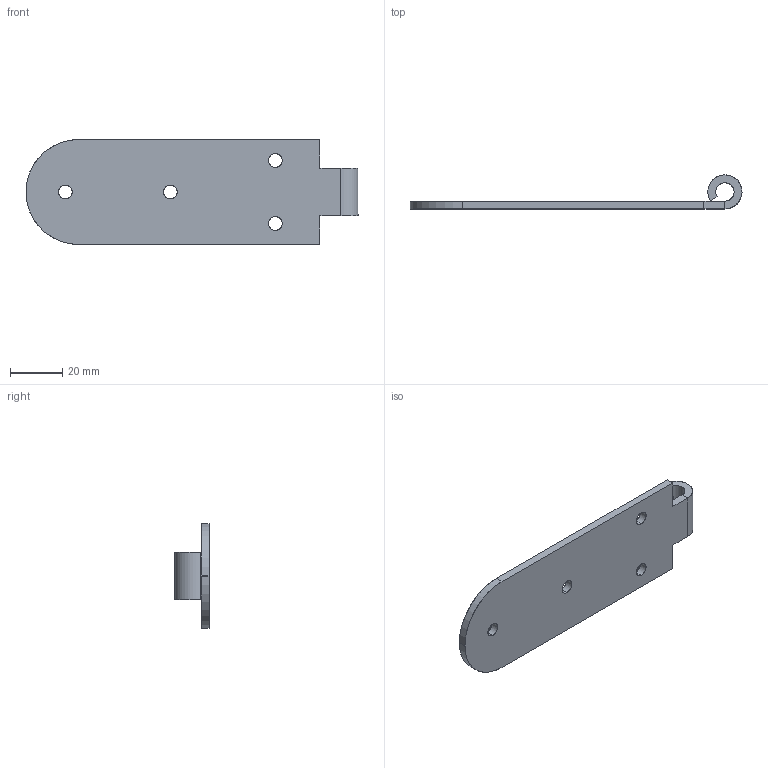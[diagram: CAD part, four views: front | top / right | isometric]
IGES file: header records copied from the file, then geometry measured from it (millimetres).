
Start section: SolidWorks IGES file using analytic representation for surfaces
Global section: file name: C:\Users\cbrechard.SAV\Desktop\CC 434\434.020.00.IGS; native system: SolidWorks 2013; preprocessor: SolidWorks 2013; author: cbrechard; date: 150209.110219; units: millimetre
Bounding box: 126.5 x 13 x 40 mm (x, y, z)
Surface area: 10944.5 mm2 (no closed solid volume)
Topology: 0 solids, 0 shells, 25 faces, 534 edges, 534 vertices
Faces by surface type: revolution 14, bspline 11
